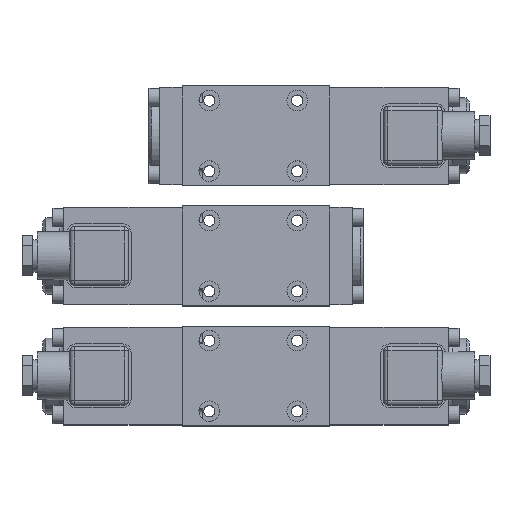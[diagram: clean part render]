
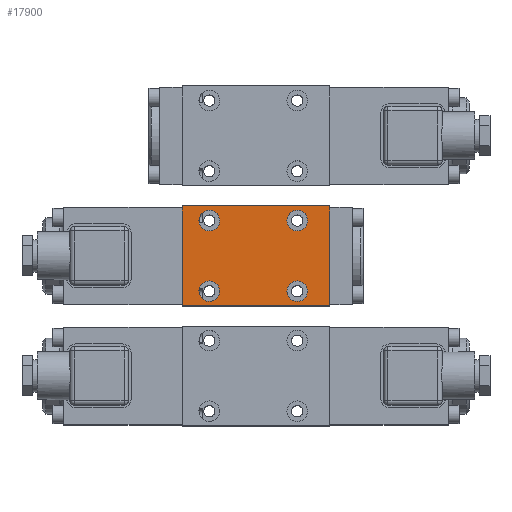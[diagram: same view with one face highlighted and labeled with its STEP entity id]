
A CAD part, top view. The second image highlights one B-rep face of the part: STEP entity #17900.
In plain terms, the highlighted planar face has unit normal (0, 0, 1).
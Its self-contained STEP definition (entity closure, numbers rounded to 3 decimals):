
#17900=ADVANCED_FACE('', (#17910,#17920,#17930,#17940,#17950), #17960, 
.T.);
#71770=AXIS2_PLACEMENT_3D('Ax2Pl3d', #71780, #71790, #71800);
#72050=AXIS2_PLACEMENT_3D('Ax2Pl3d', #72060, #72070, #72080);
#72970=AXIS2_PLACEMENT_3D('Ax2Pl3d', #72980, #72990, #73000);
#73010=AXIS2_PLACEMENT_3D('Ax2Pl3d', #73020, #73030, #73040);
#73050=AXIS2_PLACEMENT_3D('Ax2Pl3d', #73060, #73070, #73080);
#71780=CARTESIAN_POINT('HicPkt', (12.5,61.25,209.));
#159070=CARTESIAN_POINT('', (12.5,66.,209.));
#72060=CARTESIAN_POINT('HicPkt', (12.5,93.75,209.));
#159160=CARTESIAN_POINT('', (12.5,98.5,209.));
#159250=CARTESIAN_POINT('', (0.,54.5,209.));
#159260=CARTESIAN_POINT('', (0.,54.5,209.));
#159270=CARTESIAN_POINT('', (0.,100.5,209.));
#72980=CARTESIAN_POINT('HicPkt', (0.,100.5,209.));
#159460=CARTESIAN_POINT('', (68.,54.5,209.));
#159470=CARTESIAN_POINT('', (68.,54.5,209.));
#159480=CARTESIAN_POINT('', (68.,100.5,209.));
#159490=CARTESIAN_POINT('', (68.,100.5,209.));
#159500=CARTESIAN_POINT('', (0.,100.5,209.));
#73020=CARTESIAN_POINT('HicPkt', (53.,93.75,209.));
#159510=CARTESIAN_POINT('', (53.,89.,209.));
#73060=CARTESIAN_POINT('HicPkt', (53.,61.25,209.));
#159520=CARTESIAN_POINT('', (53.,66.,209.));
#177820=CIRCLE('Circle', #71770, 4.75);
#177860=CIRCLE('Circle', #72050, 4.75);
#178010=CIRCLE('Circle', #73010, 4.75);
#178020=CIRCLE('Circle', #73050, 4.75);
#71790=DIRECTION('Axis', (0.,0.,1.));
#71800=DIRECTION('RefDirection', (1.,0.,0.));
#72070=DIRECTION('Axis', (0.,0.,1.));
#72080=DIRECTION('RefDirection', (1.,0.,0.));
#262570=DIRECTION('', (0.,-1.,0.));
#72990=DIRECTION('Axis', (0.,0.,1.));
#73000=DIRECTION('RefDirection', (1.,0.,0.));
#262630=DIRECTION('', (1.,0.,0.));
#262640=DIRECTION('', (0.,1.,0.));
#262650=DIRECTION('', (-1.,0.,0.));
#73030=DIRECTION('Axis', (0.,0.,1.));
#73040=DIRECTION('RefDirection', (1.,0.,0.));
#73070=DIRECTION('Axis', (0.,0.,1.));
#73080=DIRECTION('RefDirection', (1.,0.,0.));
#290730=EDGE_CURVE('', #290740, #290740, #177820, .T.);
#290900=EDGE_CURVE('', #290910, #290910, #177860, .T.);
#291080=EDGE_CURVE('', #291090, #291060, #291100, .T.);
#291440=EDGE_CURVE('', #291060, #291450, #291460, .T.);
#291470=EDGE_CURVE('', #291450, #291480, #291490, .T.);
#291500=EDGE_CURVE('', #291480, #291090, #291510, .T.);
#291520=EDGE_CURVE('', #291530, #291530, #178010, .T.);
#291540=EDGE_CURVE('', #291550, #291550, #178020, .T.);
#343240=EDGE_LOOP('Edge_loop', (#343250,#343260,#343270,#343280));
#343290=EDGE_LOOP('Edge_loop', (#343300));
#343310=EDGE_LOOP('Edge_loop', (#343320));
#343330=EDGE_LOOP('Edge_loop', (#343340));
#343350=EDGE_LOOP('Edge_loop', (#343360));
#17920=FACE_BOUND('', #343290, .T.);
#17930=FACE_BOUND('', #343310, .T.);
#17940=FACE_BOUND('', #343330, .T.);
#17950=FACE_BOUND('', #343350, .T.);
#17910=FACE_OUTER_BOUND('Face_outer_bound', #343240, .T.);
#291100=LINE('Line', #159260, #405770);
#291460=LINE('Line', #159460, #405830);
#291490=LINE('Line', #159480, #405840);
#291510=LINE('Line', #159500, #405850);
#343250=ORIENTED_EDGE('', *, *, #291080, .T.);
#343260=ORIENTED_EDGE('', *, *, #291440, .T.);
#343270=ORIENTED_EDGE('', *, *, #291470, .T.);
#343280=ORIENTED_EDGE('', *, *, #291500, .T.);
#343300=ORIENTED_EDGE('', *, *, #290730, .F.);
#343320=ORIENTED_EDGE('', *, *, #290900, .F.);
#343340=ORIENTED_EDGE('', *, *, #291520, .F.);
#343360=ORIENTED_EDGE('', *, *, #291540, .F.);
#17960=PLANE('Plane', #72970);
#405770=VECTOR('', #262570, 46.);
#405830=VECTOR('', #262630, 68.);
#405840=VECTOR('', #262640, 46.);
#405850=VECTOR('', #262650, 68.);
#290740=VERTEX_POINT('', #159070);
#290910=VERTEX_POINT('', #159160);
#291060=VERTEX_POINT('', #159250);
#291090=VERTEX_POINT('', #159270);
#291450=VERTEX_POINT('', #159470);
#291480=VERTEX_POINT('', #159490);
#291530=VERTEX_POINT('', #159510);
#291550=VERTEX_POINT('', #159520);
